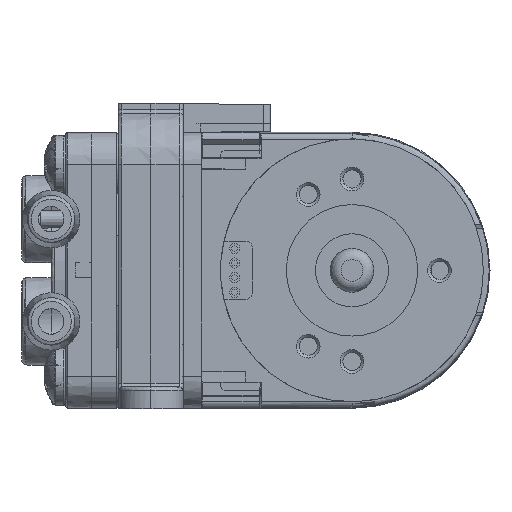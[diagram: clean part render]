
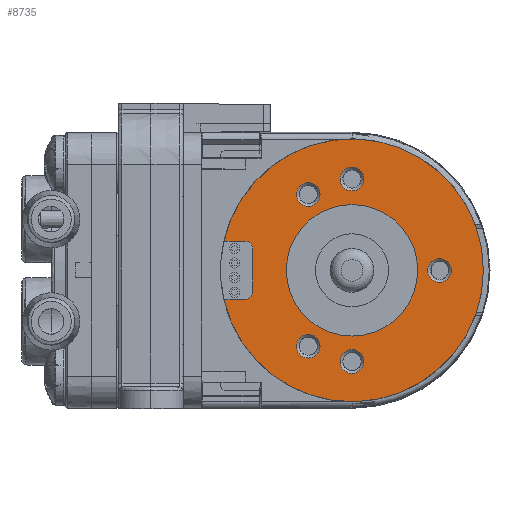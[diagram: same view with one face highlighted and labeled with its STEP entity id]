
A CAD part, front view. The second image highlights one B-rep face of the part: STEP entity #8735.
In plain terms, the highlighted planar face has unit normal (0, -1, 0).
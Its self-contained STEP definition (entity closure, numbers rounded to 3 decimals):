
#34 = CARTESIAN_POINT ( 'NONE',  ( 2.5, -34.5, -9. ) ) ;
#256 = DIRECTION ( 'NONE',  ( 0., -1., 0. ) ) ;
#361 = CARTESIAN_POINT ( 'NONE',  ( -15.05, -34.5, -4. ) ) ;
#902 = VERTEX_POINT ( 'NONE', #20114 ) ;
#942 = CARTESIAN_POINT ( 'NONE',  ( -12.1, -34.5, 4. ) ) ;
#1267 = CIRCLE ( 'NONE', #27702, 1.625 ) ;
#1324 = EDGE_LOOP ( 'NONE', ( #8053 ) ) ;
#1643 = AXIS2_PLACEMENT_3D ( 'NONE', #6393, #15004, #23532 ) ;
#1711 = CARTESIAN_POINT ( 'NONE',  ( 2.5, -34.5, 14.125 ) ) ;
#1791 = EDGE_CURVE ( 'NONE', #24439, #25688, #8824, .T. ) ;
#1976 = DIRECTION ( 'NONE',  ( 0., 1., 0. ) ) ;
#2009 = AXIS2_PLACEMENT_3D ( 'NONE', #6595, #9154, #19939 ) ;
#2278 = PLANE ( 'NONE',  #2009 ) ;
#2468 = CARTESIAN_POINT ( 'NONE',  ( -3.5, -34.5, 10.392 ) ) ;
#3001 = DIRECTION ( 'NONE',  ( 0., 0., 1. ) ) ;
#3029 = CARTESIAN_POINT ( 'NONE',  ( 2.5, -34.5, 12.5 ) ) ;
#3215 = DIRECTION ( 'NONE',  ( 0., 0., 1. ) ) ;
#3567 = AXIS2_PLACEMENT_3D ( 'NONE', #3029, #26033, #22226 ) ;
#3957 = DIRECTION ( 'NONE',  ( 0., 0., -1. ) ) ;
#4011 = CIRCLE ( 'NONE', #11211, 9. ) ;
#4197 = VECTOR ( 'NONE', #17496, 1000. ) ;
#4420 = VERTEX_POINT ( 'NONE', #13484 ) ;
#4551 = CIRCLE ( 'NONE', #14009, 1. ) ;
#4848 = VERTEX_POINT ( 'NONE', #17466 ) ;
#5048 = FACE_BOUND ( 'NONE', #26900, .T. ) ;
#5310 = EDGE_CURVE ( 'NONE', #4420, #4848, #6217, .T. ) ;
#5334 = AXIS2_PLACEMENT_3D ( 'NONE', #8659, #25758, #15538 ) ;
#5683 = LINE ( 'NONE', #22799, #13514 ) ;
#5691 = ORIENTED_EDGE ( 'NONE', *, *, #10513, .F. ) ;
#5805 = EDGE_CURVE ( 'NONE', #25688, #4420, #22081, .T. ) ;
#6217 = CIRCLE ( 'NONE', #12983, 18. ) ;
#6393 = CARTESIAN_POINT ( 'NONE',  ( 2.5, -34.5, -12.5 ) ) ;
#6595 = CARTESIAN_POINT ( 'NONE',  ( -15.5, -34.5, 0. ) ) ;
#6781 = VERTEX_POINT ( 'NONE', #23911 ) ;
#6831 = DIRECTION ( 'NONE',  ( 0., 0., 1. ) ) ;
#6905 = ORIENTED_EDGE ( 'NONE', *, *, #26461, .T. ) ;
#7690 = EDGE_CURVE ( 'NONE', #4848, #26471, #22921, .T. ) ;
#8053 = ORIENTED_EDGE ( 'NONE', *, *, #13405, .F. ) ;
#8166 = CARTESIAN_POINT ( 'NONE',  ( -3.5, -34.5, -8.767 ) ) ;
#8463 = EDGE_LOOP ( 'NONE', ( #27074 ) ) ;
#8566 = DIRECTION ( 'NONE',  ( 0., 0., 1. ) ) ;
#8659 = CARTESIAN_POINT ( 'NONE',  ( -3.5, -34.5, -10.392 ) ) ;
#8735 = ADVANCED_FACE ( 'NONE', ( #23878, #24279, #5048, #19396, #11094, #13642, #8858 ), #2278, .F. ) ;
#8799 = CARTESIAN_POINT ( 'NONE',  ( 14.5, -34.5, 0. ) ) ;
#8824 = CIRCLE ( 'NONE', #25396, 1. ) ;
#8858 = FACE_BOUND ( 'NONE', #11769, .T. ) ;
#9154 = DIRECTION ( 'NONE',  ( 0., 1., 0. ) ) ;
#10365 = CARTESIAN_POINT ( 'NONE',  ( -12.1, -34.5, 4. ) ) ;
#10513 = EDGE_CURVE ( 'NONE', #6781, #6781, #25820, .T. ) ;
#10524 = CARTESIAN_POINT ( 'NONE',  ( -12.1, -34.5, -3. ) ) ;
#10686 = ORIENTED_EDGE ( 'NONE', *, *, #24109, .F. ) ;
#10708 = CARTESIAN_POINT ( 'NONE',  ( -12.1, -34.5, -4. ) ) ;
#11018 = EDGE_LOOP ( 'NONE', ( #10686 ) ) ;
#11094 = FACE_BOUND ( 'NONE', #11018, .T. ) ;
#11211 = AXIS2_PLACEMENT_3D ( 'NONE', #16921, #27683, #3957 ) ;
#11269 = EDGE_CURVE ( 'NONE', #26471, #22594, #4551, .T. ) ;
#11505 = ORIENTED_EDGE ( 'NONE', *, *, #13269, .F. ) ;
#11643 = ORIENTED_EDGE ( 'NONE', *, *, #5310, .F. ) ;
#11769 = EDGE_LOOP ( 'NONE', ( #6905 ) ) ;
#12683 = DIRECTION ( 'NONE',  ( 0., -1., 0. ) ) ;
#12899 = ORIENTED_EDGE ( 'NONE', *, *, #14872, .F. ) ;
#12983 = AXIS2_PLACEMENT_3D ( 'NONE', #27179, #1976, #16431 ) ;
#13269 = EDGE_CURVE ( 'NONE', #22594, #24439, #5683, .T. ) ;
#13405 = EDGE_CURVE ( 'NONE', #17621, #17621, #22444, .T. ) ;
#13430 = DIRECTION ( 'NONE',  ( -1., 0., 0. ) ) ;
#13484 = CARTESIAN_POINT ( 'NONE',  ( -15.05, -34.5, 4. ) ) ;
#13514 = VECTOR ( 'NONE', #3215, 1000. ) ;
#13642 = FACE_OUTER_BOUND ( 'NONE', #26898, .T. ) ;
#13962 = CARTESIAN_POINT ( 'NONE',  ( -11.1, -34.5, 3. ) ) ;
#14009 = AXIS2_PLACEMENT_3D ( 'NONE', #10524, #16727, #8566 ) ;
#14872 = EDGE_CURVE ( 'NONE', #902, #902, #1267, .T. ) ;
#15004 = DIRECTION ( 'NONE',  ( 0., -1., 0. ) ) ;
#15538 = DIRECTION ( 'NONE',  ( 0., 0., 1. ) ) ;
#15704 = CIRCLE ( 'NONE', #3567, 1.625 ) ;
#16246 = ORIENTED_EDGE ( 'NONE', *, *, #1791, .F. ) ;
#16431 = DIRECTION ( 'NONE',  ( 0., 0., -1. ) ) ;
#16727 = DIRECTION ( 'NONE',  ( 0., -1., 0. ) ) ;
#16921 = CARTESIAN_POINT ( 'NONE',  ( 2.5, -34.5, 0. ) ) ;
#17241 = EDGE_LOOP ( 'NONE', ( #5691 ) ) ;
#17275 = VECTOR ( 'NONE', #13430, 1000. ) ;
#17451 = CARTESIAN_POINT ( 'NONE',  ( -12.1, -34.5, 3. ) ) ;
#17466 = CARTESIAN_POINT ( 'NONE',  ( -15.05, -34.5, -4. ) ) ;
#17496 = DIRECTION ( 'NONE',  ( 1., 0., 0. ) ) ;
#17621 = VERTEX_POINT ( 'NONE', #24316 ) ;
#18807 = CIRCLE ( 'NONE', #5334, 1.625 ) ;
#18845 = EDGE_CURVE ( 'NONE', #20642, #20642, #18807, .T. ) ;
#19396 = FACE_BOUND ( 'NONE', #17241, .T. ) ;
#19939 = DIRECTION ( 'NONE',  ( 0., 0., -1. ) ) ;
#20114 = CARTESIAN_POINT ( 'NONE',  ( -3.5, -34.5, 12.017 ) ) ;
#20460 = ORIENTED_EDGE ( 'NONE', *, *, #7690, .F. ) ;
#20642 = VERTEX_POINT ( 'NONE', #8166 ) ;
#20903 = VERTEX_POINT ( 'NONE', #1711 ) ;
#21253 = CARTESIAN_POINT ( 'NONE',  ( -11.1, -34.5, -3. ) ) ;
#21333 = VERTEX_POINT ( 'NONE', #34 ) ;
#22081 = LINE ( 'NONE', #942, #17275 ) ;
#22226 = DIRECTION ( 'NONE',  ( 0., 0., 1. ) ) ;
#22444 = CIRCLE ( 'NONE', #26044, 1.625 ) ;
#22594 = VERTEX_POINT ( 'NONE', #21253 ) ;
#22799 = CARTESIAN_POINT ( 'NONE',  ( -11.1, -34.5, -3. ) ) ;
#22921 = LINE ( 'NONE', #361, #4197 ) ;
#23532 = DIRECTION ( 'NONE',  ( 0., 0., 1. ) ) ;
#23878 = FACE_BOUND ( 'NONE', #1324, .T. ) ;
#23911 = CARTESIAN_POINT ( 'NONE',  ( 2.5, -34.5, -10.875 ) ) ;
#23921 = DIRECTION ( 'NONE',  ( 0., -1., 0. ) ) ;
#24109 = EDGE_CURVE ( 'NONE', #20903, #20903, #15704, .T. ) ;
#24279 = FACE_BOUND ( 'NONE', #8463, .T. ) ;
#24316 = CARTESIAN_POINT ( 'NONE',  ( 14.5, -34.5, 1.625 ) ) ;
#24439 = VERTEX_POINT ( 'NONE', #13962 ) ;
#25396 = AXIS2_PLACEMENT_3D ( 'NONE', #17451, #12683, #27668 ) ;
#25688 = VERTEX_POINT ( 'NONE', #10365 ) ;
#25758 = DIRECTION ( 'NONE',  ( 0., -1., 0. ) ) ;
#25820 = CIRCLE ( 'NONE', #1643, 1.625 ) ;
#26033 = DIRECTION ( 'NONE',  ( 0., -1., 0. ) ) ;
#26044 = AXIS2_PLACEMENT_3D ( 'NONE', #8799, #256, #6831 ) ;
#26461 = EDGE_CURVE ( 'NONE', #21333, #21333, #4011, .T. ) ;
#26471 = VERTEX_POINT ( 'NONE', #10708 ) ;
#26491 = ORIENTED_EDGE ( 'NONE', *, *, #11269, .F. ) ;
#26793 = ORIENTED_EDGE ( 'NONE', *, *, #5805, .F. ) ;
#26898 = EDGE_LOOP ( 'NONE', ( #11643, #26793, #16246, #11505, #26491, #20460 ) ) ;
#26900 = EDGE_LOOP ( 'NONE', ( #12899 ) ) ;
#27074 = ORIENTED_EDGE ( 'NONE', *, *, #18845, .F. ) ;
#27179 = CARTESIAN_POINT ( 'NONE',  ( 2.5, -34.5, 0. ) ) ;
#27668 = DIRECTION ( 'NONE',  ( 0., 0., 1. ) ) ;
#27683 = DIRECTION ( 'NONE',  ( 0., 1., 0. ) ) ;
#27702 = AXIS2_PLACEMENT_3D ( 'NONE', #2468, #23921, #3001 ) ;
